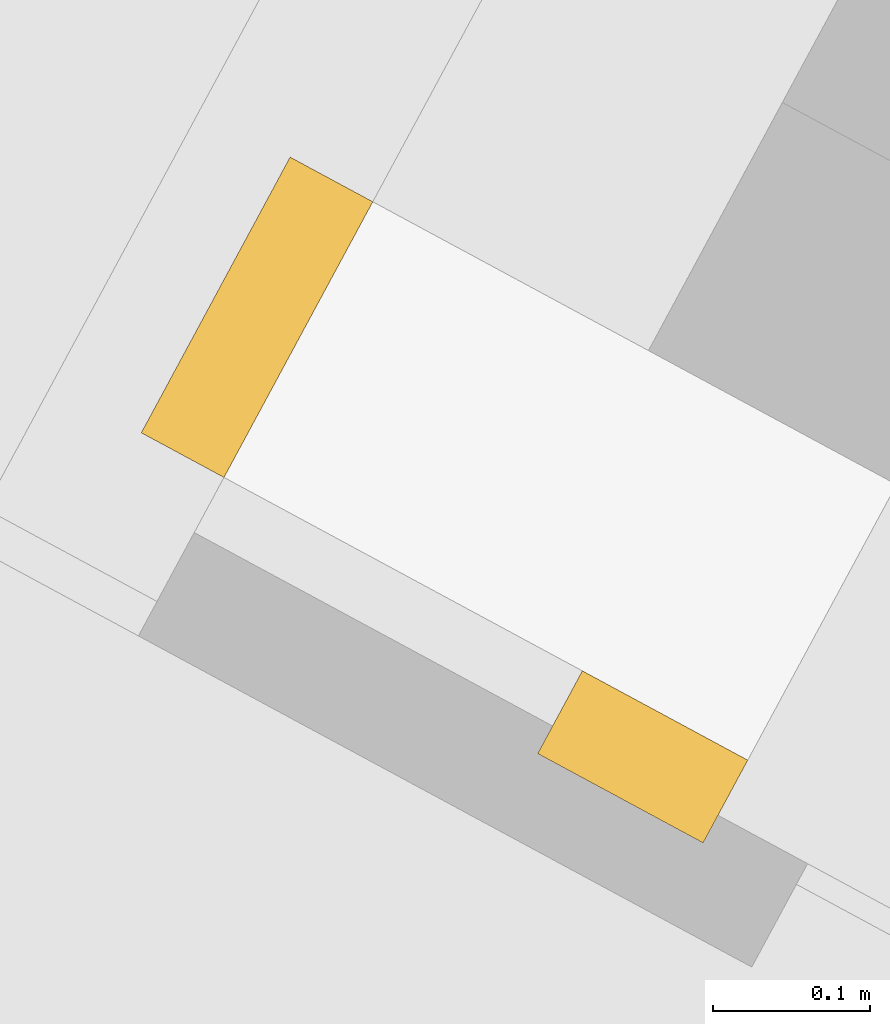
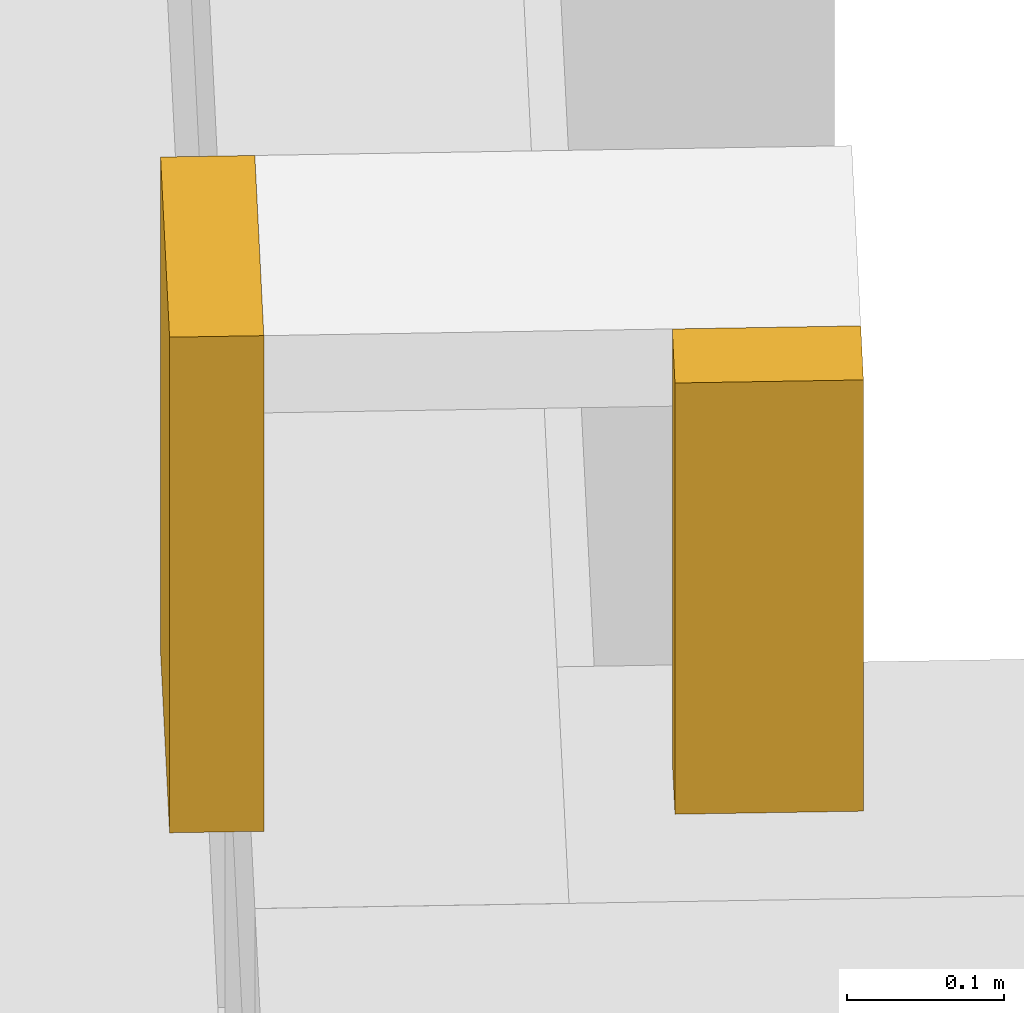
# One storey, part 24 of 52: 2 coverings.
"""IFC2X3 building model written with IfcOpenShell, lengths in metres."""

from ifc_helpers import new_model, entity, si_unit, converted_unit, derived_unit, money_unit, direction, frame, origin_with_axes, place, context, subcontext, project, spatial, faceted_brep, material, type_object, element, save


model = new_model("IFC2X3")

# Units and contexts
model_context = context("Model", 3, precision=1e-05, world=origin_with_axes(), true_north=direction((0.0, 1.0)))
body_context = subcontext(model_context, "Body", "Model", "MODEL_VIEW")
ifc_project = project(units=[si_unit("LENGTHUNIT", "METRE"), si_unit("AREAUNIT", "SQUARE_METRE"), si_unit("VOLUMEUNIT", "CUBIC_METRE"), converted_unit("PLANEANGLEUNIT", "DEGREE", entity("IfcPlaneAngleMeasure", 0.0174532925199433), si_unit("PLANEANGLEUNIT", "RADIAN"), dimensions=[0, 0, 0, 0, 0, 0, 0]), money_unit("EUR"), converted_unit("TIMEUNIT", "Year", entity("IfcTimeMeasure", 31556926.0), si_unit("TIMEUNIT", "SECOND"), dimensions=[0, 0, 1, 0, 0, 0, 0]), si_unit("MASSUNIT", "GRAM", prefix="KILO"), si_unit("THERMODYNAMICTEMPERATUREUNIT", "DEGREE_CELSIUS"), si_unit("LUMINOUSINTENSITYUNIT", "LUMEN"), si_unit("ENERGYUNIT", "JOULE", prefix="MEGA"), derived_unit("THERMALCONDUCTANCEUNIT", [(si_unit("POWERUNIT", "WATT"), 1), (si_unit("LENGTHUNIT", "METRE"), -1), (si_unit("THERMODYNAMICTEMPERATUREUNIT", "KELVIN"), -1)]), derived_unit("SPECIFICHEATCAPACITYUNIT", [(si_unit("ENERGYUNIT", "JOULE"), 1), (si_unit("MASSUNIT", "GRAM", prefix="KILO"), -1), (si_unit("THERMODYNAMICTEMPERATUREUNIT", "KELVIN"), -1)]), derived_unit("MASSDENSITYUNIT", [(si_unit("MASSUNIT", "GRAM", prefix="KILO"), 1), (si_unit("VOLUMEUNIT", "CUBIC_METRE"), -1)])], contexts=[model_context])

# Site, building, storey
site_placement = place(None, frame((-3.949935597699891, 1.740105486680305, 0.0), z_axis=(0.0, 0.0, 1.0), x_axis=(0.8799804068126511, -0.475009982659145, 0.0)))
site = spatial("IfcSite", under=ifc_project, at=site_placement, Name="Gelände", CompositionType="ELEMENT")
building_placement = place(site_placement, origin_with_axes())
building = spatial("IfcBuilding", under=site, at=building_placement, Name="Gebäude", CompositionType="ELEMENT")
storey_placement = place(building_placement, origin_with_axes())
storey = spatial("IfcBuildingStorey", under=building, at=storey_placement, Name="Erdgeschoss", CompositionType="ELEMENT", Elevation=0.0)

# Coverings
ifc_material = material(Name="_SIWH - Dämmung, hart Mineralwolle")
covering_type = type_object("IfcCoveringType", Name="_SIWH - Dämmung, hart Mineralwolle 60", PredefinedType="NOTDEFINED")
covering_1_placement = place(storey_placement, frame((17.42749037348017, 14.88304610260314, 4.150000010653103), z_axis=(0.0, 0.0, 1.0), x_axis=(0.9999999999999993, -3.601551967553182e-08, 0.0)))
element("IfcCovering", 1, at=covering_1_placement, inside=storey, type_object=covering_type, material=ifc_material, Name="A-Wand035", PredefinedType="NOTDEFINED", context=body_context, shape_type="Brep", body=[
    faceted_brep([(2.160930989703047e-09, -0.0600000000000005, 0.3349999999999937), (0.1199856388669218, -0.05999999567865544, 0.3349999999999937), (0.1199856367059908, 4.321345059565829e-09, 0.3349999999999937), (0.0, 0.0, 0.3349999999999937), (2.160930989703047e-09, -0.0600000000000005, 0.0), (0.1199856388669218, -0.05999999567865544, 0.0), (0.1199856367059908, 4.321345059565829e-09, 0.0), (0.0, 0.0, 0.0)], [[[0, 1, 2, 3]], [[4, 5, 1, 0]], [[2, 1, 5, 6]], [[3, 2, 6, 7]], [[4, 0, 3, 7]], [[7, 6, 5, 4]]]),
])
covering_2_placement = place(storey_placement, frame((17.16747599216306, 15.0830461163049, 4.100000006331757), z_axis=(0.0, 0.0, 1.0), x_axis=(4.847162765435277e-06, -0.9999999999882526, 0.0)))
element("IfcCovering", 2, at=covering_2_placement, inside=storey, type_object=covering_type, material=ifc_material, Name="A-Wand035", PredefinedType="NOTDEFINED", context=body_context, shape_type="Brep", body=[
    faceted_brep([(0.0, 0.0, 0.3850000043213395), (0.0, -0.06000000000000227, 0.3850000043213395), (0.2000000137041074, -0.06000000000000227, 0.3850000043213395), (0.2000000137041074, 0.0, 0.3850000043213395), (0.0, 0.0, 0.0), (0.0, -0.06000000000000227, 0.0), (0.2000000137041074, -0.06000000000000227, 0.0), (0.2000000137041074, 0.0, 0.0)], [[[0, 1, 2, 3]], [[4, 5, 1, 0]], [[1, 5, 6, 2]], [[7, 3, 2, 6]], [[4, 0, 3, 7]], [[5, 4, 7, 6]]]),
])

save(model, "model.ifc")
